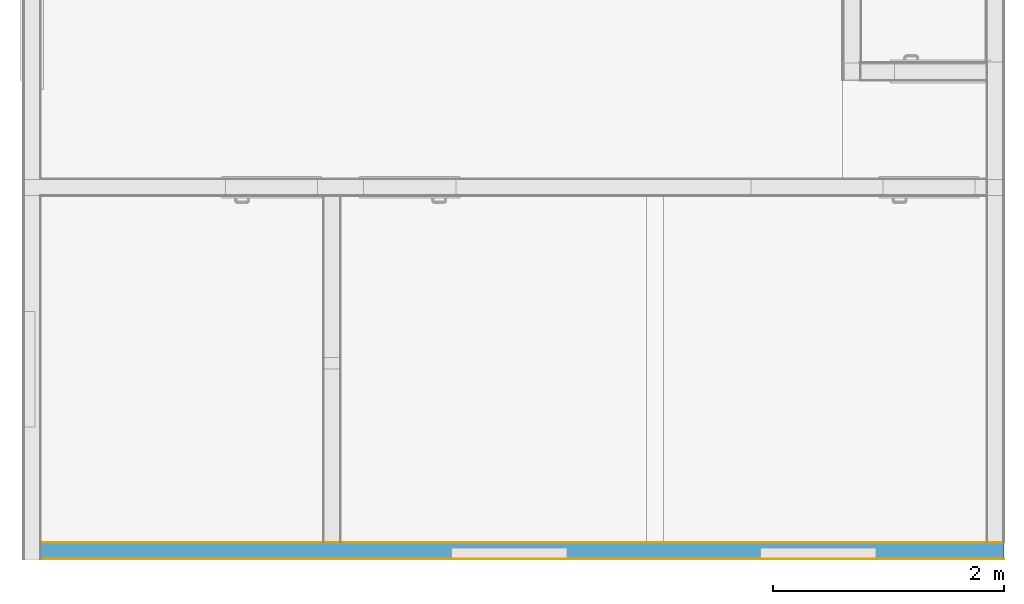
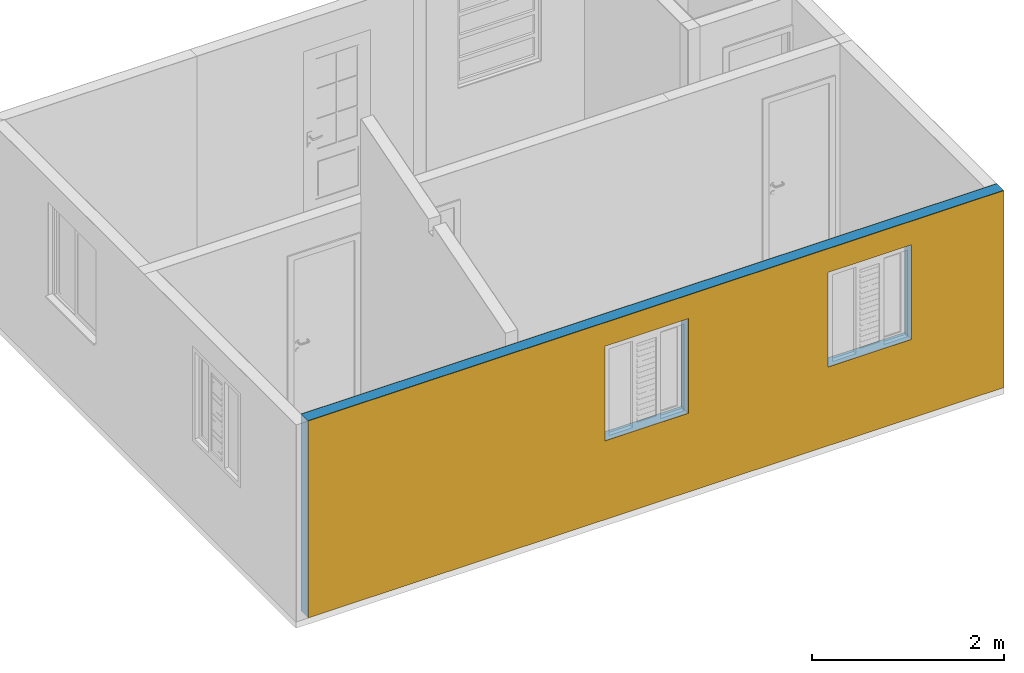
# One storey, part 4 of 8: 2 coverings, 1 building element part, 2 openings, 1 element without a shape of its own.
"""IFC2X3 building model written with IfcOpenShell, lengths in millimetres."""

from ifc_helpers import new_model, entity, si_unit, converted_unit, derived_unit, money_unit, direction, frame, origin_with_axes, origin_2d_with_axis, place, context, subcontext, project, spatial, polyline, rectangle, outline, extrude, material, type_object, element, aggregate, save


model = new_model("IFC2X3")

# Units and contexts
model_context = context("Model", 3, precision=0.01, world=origin_with_axes(), true_north=direction((0.0, 1.0)))
body_context = subcontext(model_context, "Body", "Model", "MODEL_VIEW")
ifc_project = project(units=[si_unit("LENGTHUNIT", "METRE", prefix="MILLI"), si_unit("AREAUNIT", "SQUARE_METRE"), si_unit("VOLUMEUNIT", "CUBIC_METRE"), converted_unit("PLANEANGLEUNIT", "DEGREE", entity("IfcPlaneAngleMeasure", 0.0174532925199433), si_unit("PLANEANGLEUNIT", "RADIAN"), dimensions=[0, 0, 0, 0, 0, 0, 0]), money_unit("USD"), converted_unit("TIMEUNIT", "Year", entity("IfcTimeMeasure", 31557600.0), si_unit("TIMEUNIT", "SECOND"), dimensions=[0, 0, 1, 0, 0, 0, 0]), si_unit("MASSUNIT", "GRAM", prefix="KILO"), si_unit("THERMODYNAMICTEMPERATUREUNIT", "DEGREE_CELSIUS"), si_unit("LUMINOUSINTENSITYUNIT", "LUMEN"), si_unit("ENERGYUNIT", "JOULE", prefix="MEGA"), derived_unit("THERMALCONDUCTANCEUNIT", [(si_unit("POWERUNIT", "WATT"), 1), (si_unit("LENGTHUNIT", "METRE"), -1), (si_unit("THERMODYNAMICTEMPERATUREUNIT", "KELVIN"), -1)]), derived_unit("SPECIFICHEATCAPACITYUNIT", [(si_unit("ENERGYUNIT", "JOULE"), 1), (si_unit("MASSUNIT", "GRAM", prefix="KILO"), -1), (si_unit("THERMODYNAMICTEMPERATUREUNIT", "KELVIN"), -1)]), derived_unit("MASSDENSITYUNIT", [(si_unit("MASSUNIT", "GRAM", prefix="KILO"), 1), (si_unit("VOLUMEUNIT", "CUBIC_METRE"), -1)])], contexts=[model_context])

# Site, building, storey
site_placement = place(None, origin_with_axes())
site = spatial("IfcSite", under=ifc_project, at=site_placement, Name="Local", CompositionType="ELEMENT")
building_placement = place(site_placement, origin_with_axes())
building = spatial("IfcBuilding", under=site, at=building_placement, Name="Construção", CompositionType="ELEMENT")
storey_placement = place(building_placement, origin_with_axes())
storey = spatial("IfcBuildingStorey", under=building, at=storey_placement, Name="Pavimento Térreo", CompositionType="ELEMENT", Elevation=0.0)

# Wall, openings, coverings, building element part
wall_type = type_object("IfcWallType", Name="Alvenaria 140, Rebocada 2 Faces 150", PredefinedType="NOTDEFINED")
wall_placement = place(storey_placement, frame((150.0, 0.0, 0.0), z_axis=(0.0, 0.0, 1.0), x_axis=(1.0, 0.0, 0.0)))
wall = element("IfcWall", 1, at=wall_placement, inside=storey, type_object=wall_type, Name="Parede-02")
opening_1_placement = place(wall_placement, frame((4060.000000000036, 0.0, 1000.0), z_axis=(0.0, 0.0, 1.0), x_axis=(1.0, 0.0, 0.0)))
element("IfcOpeningElement", 2, at=opening_1_placement, cuts=wall, Name="J04", context=body_context, shape_type="SweptSolid", body=[
    extrude(rectangle(XDim=1000.0, YDim=1200.0, at=origin_2d_with_axis()), frame((0.0, 150.0000000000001, 600.0000000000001), z_axis=(0.0, -1.0, 0.0), x_axis=(-1.0, 0.0, 0.0)), (0.0, 0.0, 1.0), 450.0000000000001),
])
opening_2_placement = place(wall_placement, frame((6740.000000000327, 0.0, 1000.0), z_axis=(0.0, 0.0, 1.0), x_axis=(1.0, 0.0, 0.0)))
element("IfcOpeningElement", 3, at=opening_2_placement, cuts=wall, Name="J05", context=body_context, shape_type="SweptSolid", body=[
    extrude(rectangle(XDim=1000.0, YDim=1200.0, at=origin_2d_with_axis()), frame((0.0, 150.0000000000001, 600.0000000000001), z_axis=(0.0, -1.0, 0.0), x_axis=(-1.0, 0.0, 0.0)), (0.0, 0.0, 1.0), 450.0000000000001),
])
ifc_material_1 = material(Name="Reboco DEF")
covering_1_placement = place(wall_placement, origin_with_axes())
covering_1 = element("IfcCovering", 4, at=covering_1_placement, material=ifc_material_1, Name="Reboco DEF", PredefinedType="CLADDING", context=body_context, shape_type="SweptSolid", body=[
    extrude(outline(polyline([(0.0, 0.0), (8350.0, 0.0), (8350.0, 5.000000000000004), (0.0, 5.000000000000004), (0.0, 0.0)])), origin_with_axes(), (0.0, 0.0, 1.0), 2500.0),
])
covering_2_placement = place(wall_placement, origin_with_axes())
covering_2 = element("IfcCovering", 5, at=covering_2_placement, material=ifc_material_1, Name="Reboco DEF", PredefinedType="CLADDING", context=body_context, shape_type="SweptSolid", body=[
    extrude(outline(polyline([(0.0, 145.0), (8350.0, 145.0), (8350.0, 150.0), (0.0, 150.0), (0.0, 145.0)])), origin_with_axes(), (0.0, 0.0, 1.0), 2500.0),
])
ifc_material_2 = material(Name="Bloco de Concreto - Estrutural DEF")
building_element_part_placement = place(wall_placement, origin_with_axes())
building_element_part = element("IfcBuildingElementPart", 6, at=building_element_part_placement, material=ifc_material_2, Name="Bloco de Concreto - Estrutural DEF", context=body_context, shape_type="SweptSolid", body=[
    extrude(outline(polyline([(0.0, 4.999999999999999), (8350.0, 4.999999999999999), (8350.0, 145.0), (0.0, 145.0), (0.0, 4.999999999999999)])), origin_with_axes(), (0.0, 0.0, 1.0), 2500.0),
])
aggregate(wall, [covering_1, building_element_part, covering_2])

save(model, "model.ifc")
